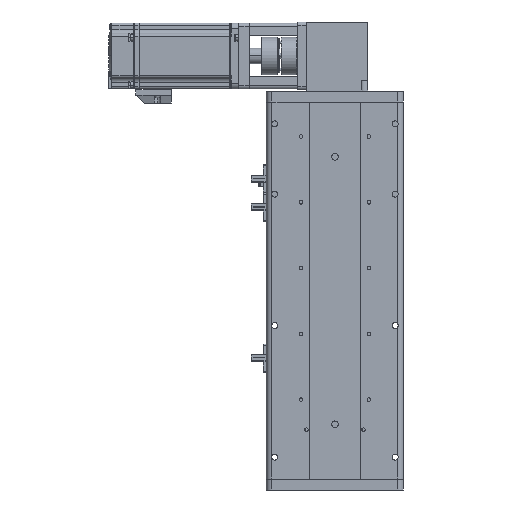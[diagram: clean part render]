
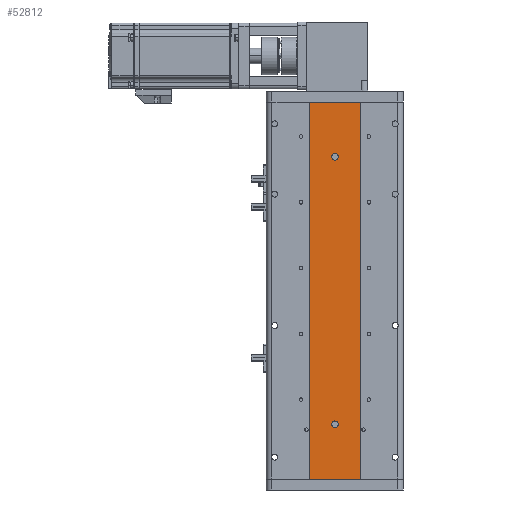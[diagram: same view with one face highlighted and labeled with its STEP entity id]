
A CAD part, front view. The second image highlights one B-rep face of the part: STEP entity #52812.
In plain terms, the highlighted planar face has unit normal (0, -1, 0).
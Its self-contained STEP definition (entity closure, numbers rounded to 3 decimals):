
#1072 = AXIS2_PLACEMENT_3D ( 'NONE', #7418, #11935, #43104 ) ;
#1753 = LINE ( 'NONE', #45340, #47794 ) ;
#1968 = LINE ( 'NONE', #36269, #13811 ) ;
#2492 = AXIS2_PLACEMENT_3D ( 'NONE', #32033, #5288, #36501 ) ;
#2981 = ORIENTED_EDGE ( 'NONE', *, *, #45992, .F. ) ;
#3901 = DIRECTION ( 'NONE',  ( 0., 0., -1. ) ) ;
#4913 = CIRCLE ( 'NONE', #12528, 3. ) ;
#5052 = DIRECTION ( 'NONE',  ( 1., 0., 0. ) ) ;
#5288 = DIRECTION ( 'NONE',  ( 0., -1., 0. ) ) ;
#6759 = LINE ( 'NONE', #40926, #10980 ) ;
#6878 = EDGE_CURVE ( 'NONE', #45684, #10904, #13140, .T. ) ;
#6993 = EDGE_CURVE ( 'NONE', #45684, #12107, #1968, .T. ) ;
#7418 = CARTESIAN_POINT ( 'NONE',  ( 23., 1., 172.001 ) ) ;
#8578 = CARTESIAN_POINT ( 'NONE',  ( -23., 1., 172.001 ) ) ;
#8807 = ORIENTED_EDGE ( 'NONE', *, *, #12746, .F. ) ;
#10094 = EDGE_CURVE ( 'NONE', #48468, #27620, #49686, .T. ) ;
#10904 = VERTEX_POINT ( 'NONE', #42254 ) ;
#10980 = VECTOR ( 'NONE', #31810, 1000. ) ;
#11935 = DIRECTION ( 'NONE',  ( 0., 1., 0. ) ) ;
#12107 = VERTEX_POINT ( 'NONE', #17222 ) ;
#12528 = AXIS2_PLACEMENT_3D ( 'NONE', #17605, #48823, #22106 ) ;
#12629 = DIRECTION ( 'NONE',  ( 0., -1., 0. ) ) ;
#12746 = EDGE_CURVE ( 'NONE', #12107, #33874, #6759, .T. ) ;
#13140 = LINE ( 'NONE', #8578, #47344 ) ;
#13811 = VECTOR ( 'NONE', #5052, 1000. ) ;
#17222 = CARTESIAN_POINT ( 'NONE',  ( 23., 1., 172. ) ) ;
#17511 = DIRECTION ( 'NONE',  ( 0., 0., -1. ) ) ;
#17605 = CARTESIAN_POINT ( 'NONE',  ( 0., 1., 122. ) ) ;
#22106 = DIRECTION ( 'NONE',  ( 0., 0., -1. ) ) ;
#22425 = CARTESIAN_POINT ( 'NONE',  ( -23., 1., 172. ) ) ;
#22839 = FACE_OUTER_BOUND ( 'NONE', #42354, .T. ) ;
#23101 = DIRECTION ( 'NONE',  ( 1., 0., 0. ) ) ;
#23636 = CARTESIAN_POINT ( 'NONE',  ( 0., 1., 119. ) ) ;
#24913 = CARTESIAN_POINT ( 'NONE',  ( 23., 1., -172. ) ) ;
#25927 = CIRCLE ( 'NONE', #32899, 3. ) ;
#26427 = EDGE_CURVE ( 'NONE', #27620, #48468, #4913, .T. ) ;
#27620 = VERTEX_POINT ( 'NONE', #23636 ) ;
#27818 = CIRCLE ( 'NONE', #35680, 3. ) ;
#28468 = ORIENTED_EDGE ( 'NONE', *, *, #26427, .F. ) ;
#30395 = CARTESIAN_POINT ( 'NONE',  ( 0., 1., 125. ) ) ;
#30590 = DIRECTION ( 'NONE',  ( 0., -1., 0. ) ) ;
#31810 = DIRECTION ( 'NONE',  ( 0., 0., -1. ) ) ;
#32033 = CARTESIAN_POINT ( 'NONE',  ( 0., 1., 122. ) ) ;
#32299 = CARTESIAN_POINT ( 'NONE',  ( 0., 1., -125. ) ) ;
#32373 = ORIENTED_EDGE ( 'NONE', *, *, #43070, .F. ) ;
#32899 = AXIS2_PLACEMENT_3D ( 'NONE', #39287, #12629, #43826 ) ;
#33874 = VERTEX_POINT ( 'NONE', #24913 ) ;
#34292 = ORIENTED_EDGE ( 'NONE', *, *, #6878, .T. ) ;
#35680 = AXIS2_PLACEMENT_3D ( 'NONE', #57363, #30590, #3901 ) ;
#36269 = CARTESIAN_POINT ( 'NONE',  ( 23., 1., 172. ) ) ;
#36501 = DIRECTION ( 'NONE',  ( 0., 0., -1. ) ) ;
#36975 = EDGE_LOOP ( 'NONE', ( #2981, #32373 ) ) ;
#38528 = EDGE_CURVE ( 'NONE', #10904, #33874, #1753, .T. ) ;
#39287 = CARTESIAN_POINT ( 'NONE',  ( 0., 1., -122. ) ) ;
#40390 = VERTEX_POINT ( 'NONE', #32299 ) ;
#40926 = CARTESIAN_POINT ( 'NONE',  ( 23., 1., 172.001 ) ) ;
#42007 = VERTEX_POINT ( 'NONE', #44768 ) ;
#42254 = CARTESIAN_POINT ( 'NONE',  ( -23., 1., -172. ) ) ;
#42354 = EDGE_LOOP ( 'NONE', ( #34292, #49199, #8807, #48777 ) ) ;
#43070 = EDGE_CURVE ( 'NONE', #42007, #40390, #27818, .T. ) ;
#43104 = DIRECTION ( 'NONE',  ( 0., 0., 1. ) ) ;
#43826 = DIRECTION ( 'NONE',  ( 0., 0., -1. ) ) ;
#44768 = CARTESIAN_POINT ( 'NONE',  ( 0., 1., -119. ) ) ;
#45171 = FACE_BOUND ( 'NONE', #50738, .T. ) ;
#45340 = CARTESIAN_POINT ( 'NONE',  ( 23., 1., -172. ) ) ;
#45684 = VERTEX_POINT ( 'NONE', #22425 ) ;
#45992 = EDGE_CURVE ( 'NONE', #40390, #42007, #25927, .T. ) ;
#47213 = PLANE ( 'NONE',  #1072 ) ;
#47344 = VECTOR ( 'NONE', #17511, 1000. ) ;
#47794 = VECTOR ( 'NONE', #23101, 1000. ) ;
#48468 = VERTEX_POINT ( 'NONE', #30395 ) ;
#48777 = ORIENTED_EDGE ( 'NONE', *, *, #6993, .F. ) ;
#48823 = DIRECTION ( 'NONE',  ( 0., -1., 0. ) ) ;
#49199 = ORIENTED_EDGE ( 'NONE', *, *, #38528, .T. ) ;
#49686 = CIRCLE ( 'NONE', #2492, 3. ) ;
#50738 = EDGE_LOOP ( 'NONE', ( #28468, #52649 ) ) ;
#52649 = ORIENTED_EDGE ( 'NONE', *, *, #10094, .F. ) ;
#52812 = ADVANCED_FACE ( 'NONE', ( #45171, #57099, #22839 ), #47213, .F. ) ;
#57099 = FACE_BOUND ( 'NONE', #36975, .T. ) ;
#57363 = CARTESIAN_POINT ( 'NONE',  ( 0., 1., -122. ) ) ;
